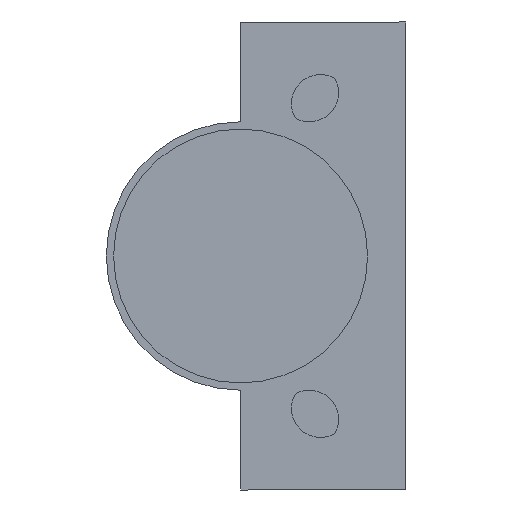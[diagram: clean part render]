
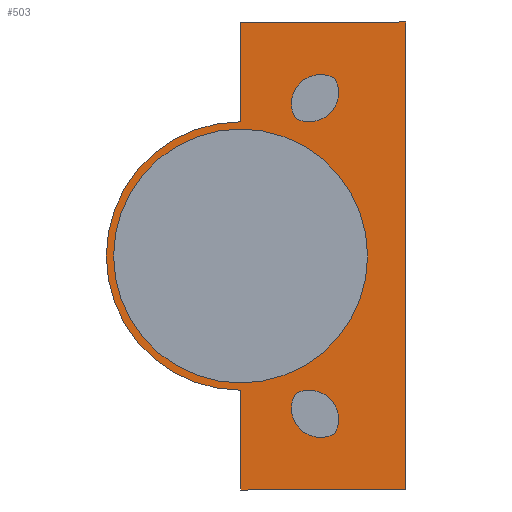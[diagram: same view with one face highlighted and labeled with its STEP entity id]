
A CAD part, front view. The second image highlights one B-rep face of the part: STEP entity #503.
In plain terms, the highlighted planar face has unit normal (0, -1, 0).
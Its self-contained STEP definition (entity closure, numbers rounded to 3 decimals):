
#20 = CIRCLE ( 'NONE', #264, 4. ) ;
#38 = VECTOR ( 'NONE', #125, 1000. ) ;
#44 = AXIS2_PLACEMENT_3D ( 'NONE', #1163, #1399, #1284 ) ;
#47 = ORIENTED_EDGE ( 'NONE', *, *, #645, .F. ) ;
#51 = CARTESIAN_POINT ( 'NONE',  ( 2.5, -38.5, 0. ) ) ;
#57 = VECTOR ( 'NONE', #1121, 1000. ) ;
#58 = CARTESIAN_POINT ( 'NONE',  ( 2.5, -38.5, 0. ) ) ;
#67 = VERTEX_POINT ( 'NONE', #744 ) ;
#93 = DIRECTION ( 'NONE',  ( 1., 0., 0. ) ) ;
#94 = CARTESIAN_POINT ( 'NONE',  ( 20., -38.5, 0. ) ) ;
#104 = EDGE_CURVE ( 'NONE', #407, #323, #663, .T. ) ;
#110 = EDGE_LOOP ( 'NONE', ( #269, #384, #1324, #123, #179, #121 ) ) ;
#112 = DIRECTION ( 'NONE',  ( 0., -1., 0. ) ) ;
#121 = ORIENTED_EDGE ( 'NONE', *, *, #895, .F. ) ;
#122 = VERTEX_POINT ( 'NONE', #94 ) ;
#123 = ORIENTED_EDGE ( 'NONE', *, *, #1309, .F. ) ;
#125 = DIRECTION ( 'NONE',  ( 0., 0., 1. ) ) ;
#126 = CIRCLE ( 'NONE', #257, 4. ) ;
#144 = ORIENTED_EDGE ( 'NONE', *, *, #959, .F. ) ;
#150 = FACE_BOUND ( 'NONE', #899, .T. ) ;
#156 = CARTESIAN_POINT ( 'NONE',  ( 9.5, -38.5, -21. ) ) ;
#158 = VERTEX_POINT ( 'NONE', #971 ) ;
#171 = EDGE_CURVE ( 'NONE', #1325, #708, #537, .T. ) ;
#179 = ORIENTED_EDGE ( 'NONE', *, *, #104, .F. ) ;
#184 = DIRECTION ( 'NONE',  ( 0., 0., 1. ) ) ;
#185 = CARTESIAN_POINT ( 'NONE',  ( 10.023, -38.5, 19.023 ) ) ;
#195 = EDGE_CURVE ( 'NONE', #67, #544, #20, .T. ) ;
#241 = DIRECTION ( 'NONE',  ( 1., 0., 0. ) ) ;
#246 = CARTESIAN_POINT ( 'NONE',  ( 25.25, -38.5, -32.25 ) ) ;
#254 = EDGE_CURVE ( 'NONE', #782, #473, #792, .T. ) ;
#256 = CARTESIAN_POINT ( 'NONE',  ( 2.5, -38.5, 32.25 ) ) ;
#257 = AXIS2_PLACEMENT_3D ( 'NONE', #779, #1227, #93 ) ;
#264 = AXIS2_PLACEMENT_3D ( 'NONE', #558, #467, #567 ) ;
#267 = CARTESIAN_POINT ( 'NONE',  ( 2.5, -38.5, -32.25 ) ) ;
#269 = ORIENTED_EDGE ( 'NONE', *, *, #254, .F. ) ;
#275 = EDGE_CURVE ( 'NONE', #782, #708, #1211, .T. ) ;
#294 = EDGE_CURVE ( 'NONE', #900, #158, #1169, .T. ) ;
#297 = CARTESIAN_POINT ( 'NONE',  ( 2.5, -38.5, -18.5 ) ) ;
#323 = VERTEX_POINT ( 'NONE', #256 ) ;
#348 = FACE_OUTER_BOUND ( 'NONE', #110, .T. ) ;
#357 = ORIENTED_EDGE ( 'NONE', *, *, #490, .F. ) ;
#358 = DIRECTION ( 'NONE',  ( 1., 0., 0. ) ) ;
#365 = CARTESIAN_POINT ( 'NONE',  ( 25.25, -38.5, 32.25 ) ) ;
#384 = ORIENTED_EDGE ( 'NONE', *, *, #275, .T. ) ;
#390 = EDGE_LOOP ( 'NONE', ( #357, #1453 ) ) ;
#393 = DIRECTION ( 'NONE',  ( 0., -1., 0. ) ) ;
#407 = VERTEX_POINT ( 'NONE', #597 ) ;
#449 = CARTESIAN_POINT ( 'NONE',  ( 12., -38.5, 22.5 ) ) ;
#455 = AXIS2_PLACEMENT_3D ( 'NONE', #1139, #817, #1257 ) ;
#467 = DIRECTION ( 'NONE',  ( 0., -1., 0. ) ) ;
#473 = VERTEX_POINT ( 'NONE', #297 ) ;
#484 = AXIS2_PLACEMENT_3D ( 'NONE', #816, #1392, #1377 ) ;
#486 = PLANE ( 'NONE',  #1374 ) ;
#490 = EDGE_CURVE ( 'NONE', #1342, #122, #1404, .T. ) ;
#498 = DIRECTION ( 'NONE',  ( 0., 1., 0. ) ) ;
#503 = ADVANCED_FACE ( 'NONE', ( #348, #1278, #1027, #150 ), #486, .F. ) ;
#516 = CIRCLE ( 'NONE', #44, 4. ) ;
#537 = LINE ( 'NONE', #791, #57 ) ;
#544 = VERTEX_POINT ( 'NONE', #969 ) ;
#558 = CARTESIAN_POINT ( 'NONE',  ( 13.5, -38.5, 21. ) ) ;
#567 = DIRECTION ( 'NONE',  ( 1., 0., 0. ) ) ;
#597 = CARTESIAN_POINT ( 'NONE',  ( 2.5, -38.5, 18.5 ) ) ;
#609 = DIRECTION ( 'NONE',  ( -1., 0., 0. ) ) ;
#614 = DIRECTION ( 'NONE',  ( 0., 1., 0. ) ) ;
#645 = EDGE_CURVE ( 'NONE', #1460, #67, #1095, .T. ) ;
#663 = LINE ( 'NONE', #1422, #1098 ) ;
#686 = DIRECTION ( 'NONE',  ( 0., -1., 0. ) ) ;
#691 = CARTESIAN_POINT ( 'NONE',  ( 25.25, -38.5, -32.25 ) ) ;
#708 = VERTEX_POINT ( 'NONE', #691 ) ;
#713 = CIRCLE ( 'NONE', #1322, 18.5 ) ;
#720 = DIRECTION ( 'NONE',  ( -1., 0., 0. ) ) ;
#724 = EDGE_CURVE ( 'NONE', #1412, #900, #1363, .T. ) ;
#725 = ORIENTED_EDGE ( 'NONE', *, *, #195, .F. ) ;
#744 = CARTESIAN_POINT ( 'NONE',  ( 15.477, -38.5, 24.477 ) ) ;
#761 = EDGE_CURVE ( 'NONE', #122, #1342, #1192, .T. ) ;
#779 = CARTESIAN_POINT ( 'NONE',  ( 12., -38.5, -22.5 ) ) ;
#782 = VERTEX_POINT ( 'NONE', #267 ) ;
#791 = CARTESIAN_POINT ( 'NONE',  ( 25.25, -38.5, 32.25 ) ) ;
#792 = LINE ( 'NONE', #1351, #38 ) ;
#813 = ORIENTED_EDGE ( 'NONE', *, *, #1269, .F. ) ;
#816 = CARTESIAN_POINT ( 'NONE',  ( 13.5, -38.5, -21. ) ) ;
#817 = DIRECTION ( 'NONE',  ( 0., -1., 0. ) ) ;
#833 = CARTESIAN_POINT ( 'NONE',  ( 2.5, -38.5, 0. ) ) ;
#834 = EDGE_LOOP ( 'NONE', ( #47, #144, #725 ) ) ;
#845 = AXIS2_PLACEMENT_3D ( 'NONE', #58, #393, #720 ) ;
#886 = AXIS2_PLACEMENT_3D ( 'NONE', #1352, #112, #906 ) ;
#895 = EDGE_CURVE ( 'NONE', #473, #407, #713, .T. ) ;
#899 = EDGE_LOOP ( 'NONE', ( #813, #1149, #902 ) ) ;
#900 = VERTEX_POINT ( 'NONE', #156 ) ;
#902 = ORIENTED_EDGE ( 'NONE', *, *, #724, .F. ) ;
#906 = DIRECTION ( 'NONE',  ( 1., 0., 0. ) ) ;
#927 = CARTESIAN_POINT ( 'NONE',  ( 10.023, -38.5, -19.023 ) ) ;
#929 = VECTOR ( 'NONE', #358, 1000. ) ;
#959 = EDGE_CURVE ( 'NONE', #544, #1460, #516, .T. ) ;
#969 = CARTESIAN_POINT ( 'NONE',  ( 9.5, -38.5, 21. ) ) ;
#971 = CARTESIAN_POINT ( 'NONE',  ( 15.477, -38.5, -24.477 ) ) ;
#1017 = DIRECTION ( 'NONE',  ( 1., 0., 0. ) ) ;
#1027 = FACE_BOUND ( 'NONE', #390, .T. ) ;
#1095 = CIRCLE ( 'NONE', #1264, 4. ) ;
#1098 = VECTOR ( 'NONE', #184, 1000. ) ;
#1121 = DIRECTION ( 'NONE',  ( 0., 0., -1. ) ) ;
#1137 = CARTESIAN_POINT ( 'NONE',  ( 25.25, -38.5, 32.25 ) ) ;
#1139 = CARTESIAN_POINT ( 'NONE',  ( 2.5, -38.5, 0. ) ) ;
#1149 = ORIENTED_EDGE ( 'NONE', *, *, #294, .F. ) ;
#1163 = CARTESIAN_POINT ( 'NONE',  ( 13.5, -38.5, 21. ) ) ;
#1167 = DIRECTION ( 'NONE',  ( -1., 0., 0. ) ) ;
#1169 = CIRCLE ( 'NONE', #484, 4. ) ;
#1192 = CIRCLE ( 'NONE', #455, 17.5 ) ;
#1211 = LINE ( 'NONE', #246, #1369 ) ;
#1220 = LINE ( 'NONE', #365, #929 ) ;
#1227 = DIRECTION ( 'NONE',  ( 0., -1., 0. ) ) ;
#1257 = DIRECTION ( 'NONE',  ( -1., 0., 0. ) ) ;
#1262 = CARTESIAN_POINT ( 'NONE',  ( -15., -38.5, 0. ) ) ;
#1264 = AXIS2_PLACEMENT_3D ( 'NONE', #449, #686, #241 ) ;
#1269 = EDGE_CURVE ( 'NONE', #158, #1412, #126, .T. ) ;
#1278 = FACE_BOUND ( 'NONE', #834, .T. ) ;
#1284 = DIRECTION ( 'NONE',  ( 1., 0., 0. ) ) ;
#1309 = EDGE_CURVE ( 'NONE', #323, #1325, #1220, .T. ) ;
#1322 = AXIS2_PLACEMENT_3D ( 'NONE', #833, #614, #609 ) ;
#1324 = ORIENTED_EDGE ( 'NONE', *, *, #171, .F. ) ;
#1325 = VERTEX_POINT ( 'NONE', #1137 ) ;
#1342 = VERTEX_POINT ( 'NONE', #1262 ) ;
#1351 = CARTESIAN_POINT ( 'NONE',  ( 2.5, -38.5, -31. ) ) ;
#1352 = CARTESIAN_POINT ( 'NONE',  ( 13.5, -38.5, -21. ) ) ;
#1363 = CIRCLE ( 'NONE', #886, 4. ) ;
#1369 = VECTOR ( 'NONE', #1017, 1000. ) ;
#1374 = AXIS2_PLACEMENT_3D ( 'NONE', #51, #498, #1167 ) ;
#1377 = DIRECTION ( 'NONE',  ( 1., 0., 0. ) ) ;
#1392 = DIRECTION ( 'NONE',  ( 0., -1., 0. ) ) ;
#1399 = DIRECTION ( 'NONE',  ( 0., -1., 0. ) ) ;
#1404 = CIRCLE ( 'NONE', #845, 17.5 ) ;
#1412 = VERTEX_POINT ( 'NONE', #927 ) ;
#1422 = CARTESIAN_POINT ( 'NONE',  ( 2.5, -38.5, 18.5 ) ) ;
#1453 = ORIENTED_EDGE ( 'NONE', *, *, #761, .F. ) ;
#1460 = VERTEX_POINT ( 'NONE', #185 ) ;
